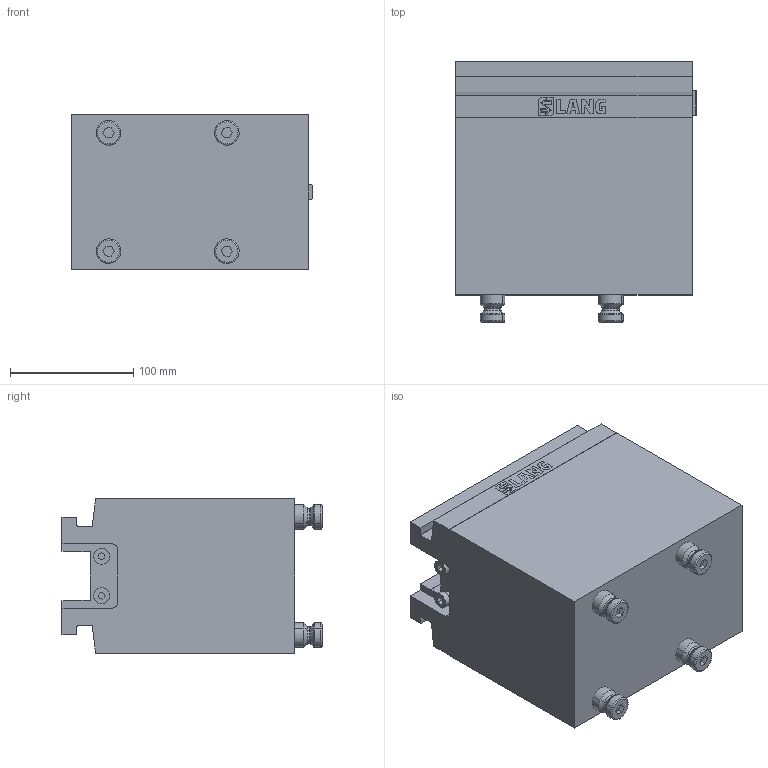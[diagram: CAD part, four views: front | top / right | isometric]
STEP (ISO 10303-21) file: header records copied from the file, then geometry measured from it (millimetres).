
FILE_DESCRIPTION (( 'STEP AP214' ), '1' );
FILE_NAME ('81023.STEP', '2020-10-28T06:02:41', ( '' ), ( '' ), 'SwSTEP 2.0', 'SolidWorks 2019', '' );
FILE_SCHEMA (( 'AUTOMOTIVE_DESIGN' ));
Length unit declared in the file: millimetre
Products named in the file (1): 81023
Bounding box: 195.51 x 211 x 125.6 mm (x, y, z)
Volume: 4195542.6 mm3; surface area: 193628.3 mm2
Topology: 9 solids, 9 shells, 489 faces, 1211 edges, 771 vertices
Faces by surface type: plane 304, cylinder 60, cone 49, bspline 40, torus 36
Entity records: 20147 total; most frequent: CARTESIAN_POINT 3181, ORIENTED_EDGE 2402, DIRECTION 2263, EDGE_CURVE 1201, LINE 881, VECTOR 881, VERTEX_POINT 771, AXIS2_PLACEMENT_3D 691
